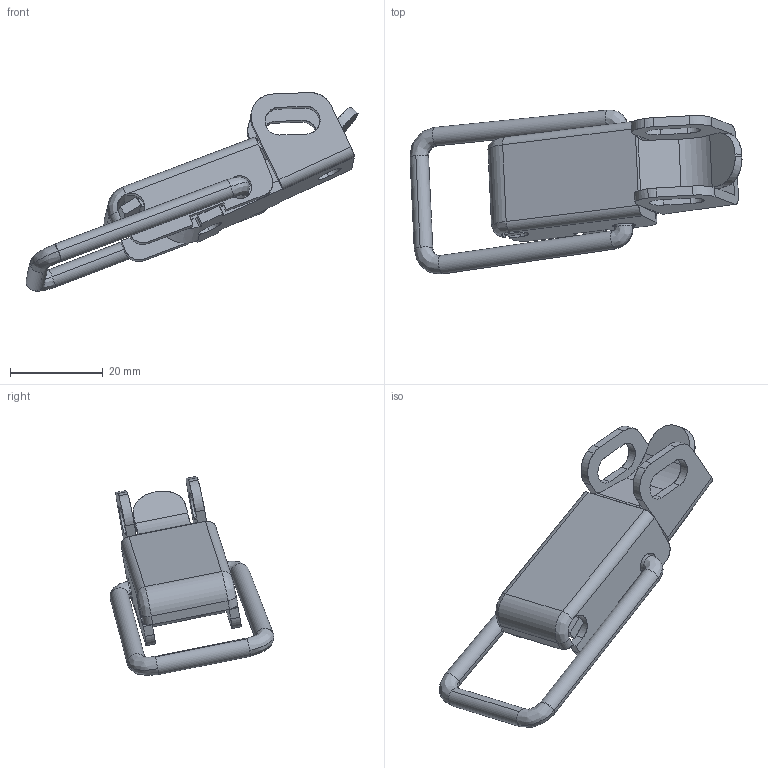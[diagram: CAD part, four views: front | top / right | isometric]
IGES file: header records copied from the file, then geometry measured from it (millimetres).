
Start section: SolidWorks IGES FILE using analytic representation for surfaces
Global section: file name: C:\Documents and Settings\lecoutey\Bureau\GO 24\GO 24.IGS; native system: SolidWorks 2004 by SolidWorks Corporation; preprocessor: Version 5.3; author: lecoutey; date: 050329.093430; units: millimetre
Bounding box: 71.7 x 35.38 x 42.95 mm (x, y, z)
Surface area: 8937.6 mm2 (no closed solid volume)
Topology: 0 solids, 0 shells, 234 faces, 1885 edges, 1795 vertices
Faces by surface type: revolution 149, bspline 85
